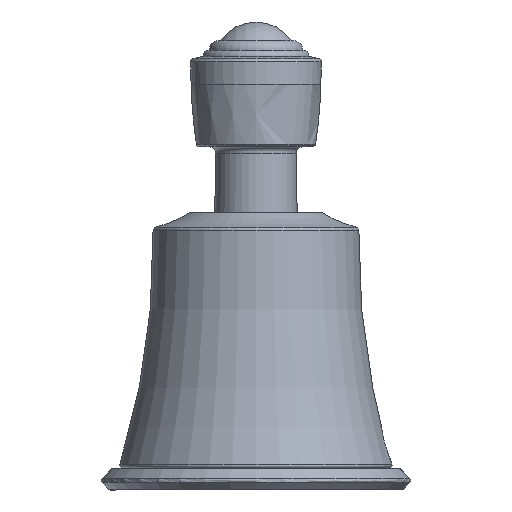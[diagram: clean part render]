
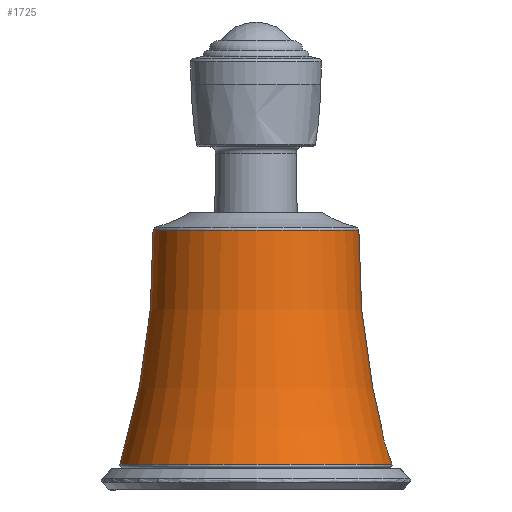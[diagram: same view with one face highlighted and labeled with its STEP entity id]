
A CAD part, left-side view. The second image highlights one B-rep face of the part: STEP entity #1725.
In plain terms, the highlighted toroidal (fillet/blend) face has major radius 136.474 mm and minor radius 120 mm.
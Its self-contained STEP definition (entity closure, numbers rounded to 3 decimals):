
#43=B_SPLINE_CURVE_WITH_KNOTS('',3,(#3268,#3269,#3270,#3271,#3272,#3273,
#3274,#3275,#3276,#3277,#3278,#3279,#3280,#3281,#3282,#3283,#3284,#3285,
#3286,#3287,#3288,#3289,#3290,#3291,#3292,#3293,#3294,#3295,#3296,#3297,
#3298,#3299,#3300),.UNSPECIFIED.,.F.,.F.,(4,2,2,2,2,2,2,3,2,2,2,2,2,2,2,
4),(-0.414,-0.405,-0.385,-0.357,
-0.297,-0.203,-0.102,0.,0.066,
0.138,0.224,0.329,0.37,
0.393,0.411,0.414),.UNSPECIFIED.);
#44=B_SPLINE_CURVE_WITH_KNOTS('',3,(#3301,#3302,#3303,#3304,#3305,#3306,
#3307,#3308,#3309,#3310,#3311,#3312,#3313,#3314,#3315,#3316,#3317,#3318,
#3319,#3320,#3321,#3322,#3323,#3324,#3325,#3326),.UNSPECIFIED.,.F.,.F.,
(4,2,2,2,2,2,2,2,2,2,2,2,4),(-1.256,-1.237,-1.201,
-1.1,-0.994,-0.894,-0.799,
-0.706,-0.612,-0.524,-0.454,
-0.425,-0.414),.UNSPECIFIED.);
#201=TOROIDAL_SURFACE('',#1978,136.474,120.);
#218=FACE_BOUND('',#401,.T.);
#297=FACE_OUTER_BOUND('',#400,.T.);
#400=EDGE_LOOP('',(#1479,#1480,#1481,#1482,#1483,#1484,#1485,#1486));
#401=EDGE_LOOP('',(#1487,#1488));
#565=CIRCLE('',#1974,21.798);
#567=CIRCLE('',#1976,21.798);
#568=CIRCLE('',#1979,16.492);
#569=CIRCLE('',#1980,16.492);
#570=CIRCLE('',#1981,120.);
#571=CIRCLE('',#1982,16.492);
#572=CIRCLE('',#1983,16.492);
#769=VERTEX_POINT('',#3259);
#770=VERTEX_POINT('',#3260);
#771=VERTEX_POINT('',#3265);
#772=VERTEX_POINT('',#3267);
#773=VERTEX_POINT('',#3328);
#774=VERTEX_POINT('',#3329);
#775=VERTEX_POINT('',#3331);
#776=VERTEX_POINT('',#3334);
#1013=EDGE_CURVE('',#769,#770,#565,.T.);
#1015=EDGE_CURVE('',#770,#769,#567,.T.);
#1017=EDGE_CURVE('',#772,#771,#43,.T.);
#1018=EDGE_CURVE('',#771,#772,#44,.T.);
#1019=EDGE_CURVE('',#773,#774,#568,.T.);
#1020=EDGE_CURVE('',#775,#773,#569,.T.);
#1021=EDGE_CURVE('',#775,#770,#570,.T.);
#1022=EDGE_CURVE('',#776,#775,#571,.T.);
#1023=EDGE_CURVE('',#774,#776,#572,.T.);
#1479=ORIENTED_EDGE('',*,*,#1019,.F.);
#1480=ORIENTED_EDGE('',*,*,#1020,.F.);
#1481=ORIENTED_EDGE('',*,*,#1021,.T.);
#1482=ORIENTED_EDGE('',*,*,#1013,.F.);
#1483=ORIENTED_EDGE('',*,*,#1015,.F.);
#1484=ORIENTED_EDGE('',*,*,#1021,.F.);
#1485=ORIENTED_EDGE('',*,*,#1022,.F.);
#1486=ORIENTED_EDGE('',*,*,#1023,.F.);
#1487=ORIENTED_EDGE('',*,*,#1018,.T.);
#1488=ORIENTED_EDGE('',*,*,#1017,.T.);
#1725=ADVANCED_FACE('',(#297,#218),#201,.F.);
#1974=AXIS2_PLACEMENT_3D('',#3261,#2519,#2520);
#1976=AXIS2_PLACEMENT_3D('',#3263,#2523,#2524);
#1978=AXIS2_PLACEMENT_3D('',#3327,#2528,#2529);
#1979=AXIS2_PLACEMENT_3D('',#3330,#2530,#2531);
#1980=AXIS2_PLACEMENT_3D('',#3332,#2532,#2533);
#1981=AXIS2_PLACEMENT_3D('',#3333,#2534,#2535);
#1982=AXIS2_PLACEMENT_3D('',#3335,#2536,#2537);
#1983=AXIS2_PLACEMENT_3D('',#3336,#2538,#2539);
#2519=DIRECTION('center_axis',(0.,0.,-1.));
#2520=DIRECTION('ref_axis',(-1.,0.,0.));
#2523=DIRECTION('center_axis',(0.,0.,-1.));
#2524=DIRECTION('ref_axis',(-1.,0.,0.));
#2528=DIRECTION('center_axis',(0.,0.,
1.));
#2529=DIRECTION('ref_axis',(0.,-1.,0.));
#2530=DIRECTION('center_axis',(0.,0.,1.));
#2531=DIRECTION('ref_axis',(-1.,0.,0.));
#2532=DIRECTION('center_axis',(0.,0.,1.));
#2533=DIRECTION('ref_axis',(1.,0.,0.));
#2534=DIRECTION('center_axis',(1.,0.,0.));
#2535=DIRECTION('ref_axis',(0.,1.,0.));
#2536=DIRECTION('center_axis',(0.,0.,1.));
#2537=DIRECTION('ref_axis',(1.,0.,0.));
#2538=DIRECTION('center_axis',(0.,0.,1.));
#2539=DIRECTION('ref_axis',(-1.,0.,0.));
#3259=CARTESIAN_POINT('',(-278.202,73.55,-22.353));
#3260=CARTESIAN_POINT('',(-300.,95.348,-22.353));
#3261=CARTESIAN_POINT('Origin',(-300.,73.55,-22.353));
#3263=CARTESIAN_POINT('Origin',(-300.,73.55,-22.353));
#3265=CARTESIAN_POINT('',(-297.4,52.895,-19.));
#3267=CARTESIAN_POINT('',(-302.6,52.895,-19.));
#3268=CARTESIAN_POINT('Ctrl Pts',(-302.6,52.895,-19.));
#3269=CARTESIAN_POINT('Ctrl Pts',(-302.6,52.903,-18.97));
#3270=CARTESIAN_POINT('Ctrl Pts',(-302.599,52.912,-18.939));
#3271=CARTESIAN_POINT('Ctrl Pts',(-302.596,52.937,-18.845));
#3272=CARTESIAN_POINT('Ctrl Pts',(-302.592,52.955,-18.781));
#3273=CARTESIAN_POINT('Ctrl Pts',(-302.575,52.995,-18.629));
#3274=CARTESIAN_POINT('Ctrl Pts',(-302.561,53.017,-18.54));
#3275=CARTESIAN_POINT('Ctrl Pts',(-302.501,53.086,-18.262));
#3276=CARTESIAN_POINT('Ctrl Pts',(-302.439,53.128,-18.077));
#3277=CARTESIAN_POINT('Ctrl Pts',(-302.225,53.226,-17.619));
#3278=CARTESIAN_POINT('Ctrl Pts',(-302.044,53.274,-17.363));
#3279=CARTESIAN_POINT('Ctrl Pts',(-301.583,53.35,-16.911));
#3280=CARTESIAN_POINT('Ctrl Pts',(-301.303,53.377,-16.725));
#3281=CARTESIAN_POINT('Ctrl Pts',(-300.679,53.412,-16.467));
#3282=CARTESIAN_POINT('Ctrl Pts',(-300.341,53.42,-16.4));
#3283=CARTESIAN_POINT('Ctrl Pts',(-300.,53.42,-16.4));
#3284=CARTESIAN_POINT('Ctrl Pts',(-299.779,53.42,-16.4));
#3285=CARTESIAN_POINT('Ctrl Pts',(-299.559,53.416,-16.428));
#3286=CARTESIAN_POINT('Ctrl Pts',(-299.115,53.402,-16.544));
#3287=CARTESIAN_POINT('Ctrl Pts',(-298.894,53.39,-16.635));
#3288=CARTESIAN_POINT('Ctrl Pts',(-298.441,53.351,-16.899));
#3289=CARTESIAN_POINT('Ctrl Pts',(-298.221,53.323,-17.083));
#3290=CARTESIAN_POINT('Ctrl Pts',(-297.808,53.238,-17.56));
#3291=CARTESIAN_POINT('Ctrl Pts',(-297.637,53.177,-17.863));
#3292=CARTESIAN_POINT('Ctrl Pts',(-297.488,53.072,-18.316));
#3293=CARTESIAN_POINT('Ctrl Pts',(-297.456,53.041,-18.447));
#3294=CARTESIAN_POINT('Ctrl Pts',(-297.422,52.988,-18.653));
#3295=CARTESIAN_POINT('Ctrl Pts',(-297.413,52.969,-18.727));
#3296=CARTESIAN_POINT('Ctrl Pts',(-297.403,52.934,-18.857));
#3297=CARTESIAN_POINT('Ctrl Pts',(-297.401,52.919,-18.914));
#3298=CARTESIAN_POINT('Ctrl Pts',(-297.4,52.9,-18.98));
#3299=CARTESIAN_POINT('Ctrl Pts',(-297.4,52.898,-18.99));
#3300=CARTESIAN_POINT('Ctrl Pts',(-297.4,52.895,-19.));
#3301=CARTESIAN_POINT('Ctrl Pts',(-297.4,52.895,-19.));
#3302=CARTESIAN_POINT('Ctrl Pts',(-297.4,52.878,-19.061));
#3303=CARTESIAN_POINT('Ctrl Pts',(-297.402,52.861,-19.121));
#3304=CARTESIAN_POINT('Ctrl Pts',(-297.414,52.81,-19.297));
#3305=CARTESIAN_POINT('Ctrl Pts',(-297.43,52.775,-19.412));
#3306=CARTESIAN_POINT('Ctrl Pts',(-297.519,52.642,-19.843));
#3307=CARTESIAN_POINT('Ctrl Pts',(-297.644,52.54,-20.146));
#3308=CARTESIAN_POINT('Ctrl Pts',(-298.005,52.341,-20.702));
#3309=CARTESIAN_POINT('Ctrl Pts',(-298.245,52.245,-20.949));
#3310=CARTESIAN_POINT('Ctrl Pts',(-298.797,52.095,-21.328));
#3311=CARTESIAN_POINT('Ctrl Pts',(-299.101,52.039,-21.462));
#3312=CARTESIAN_POINT('Ctrl Pts',(-299.73,51.979,-21.605));
#3313=CARTESIAN_POINT('Ctrl Pts',(-300.044,51.973,-21.618));
#3314=CARTESIAN_POINT('Ctrl Pts',(-300.663,52.009,-21.533));
#3315=CARTESIAN_POINT('Ctrl Pts',(-300.959,52.05,-21.436));
#3316=CARTESIAN_POINT('Ctrl Pts',(-301.5,52.168,-21.146));
#3317=CARTESIAN_POINT('Ctrl Pts',(-301.739,52.243,-20.956));
#3318=CARTESIAN_POINT('Ctrl Pts',(-302.127,52.406,-20.521));
#3319=CARTESIAN_POINT('Ctrl Pts',(-302.278,52.492,-20.283));
#3320=CARTESIAN_POINT('Ctrl Pts',(-302.477,52.648,-19.822));
#3321=CARTESIAN_POINT('Ctrl Pts',(-302.538,52.717,-19.605));
#3322=CARTESIAN_POINT('Ctrl Pts',(-302.585,52.811,-19.291));
#3323=CARTESIAN_POINT('Ctrl Pts',(-302.594,52.839,-19.198));
#3324=CARTESIAN_POINT('Ctrl Pts',(-302.599,52.875,-19.07));
#3325=CARTESIAN_POINT('Ctrl Pts',(-302.6,52.885,-19.035));
#3326=CARTESIAN_POINT('Ctrl Pts',(-302.6,52.895,-19.));
#3327=CARTESIAN_POINT('Origin',(-300.,73.55,12.996));
#3328=CARTESIAN_POINT('',(-316.492,73.55,15.101));
#3329=CARTESIAN_POINT('',(-300.,57.058,15.101));
#3330=CARTESIAN_POINT('Origin',(-300.,73.55,15.101));
#3331=CARTESIAN_POINT('',(-300.,90.042,15.101));
#3332=CARTESIAN_POINT('Origin',(-300.,73.55,15.101));
#3333=CARTESIAN_POINT('Origin',(-300.,210.024,12.996));
#3334=CARTESIAN_POINT('',(-283.508,73.55,15.101));
#3335=CARTESIAN_POINT('Origin',(-300.,73.55,15.101));
#3336=CARTESIAN_POINT('Origin',(-300.,73.55,15.101));
